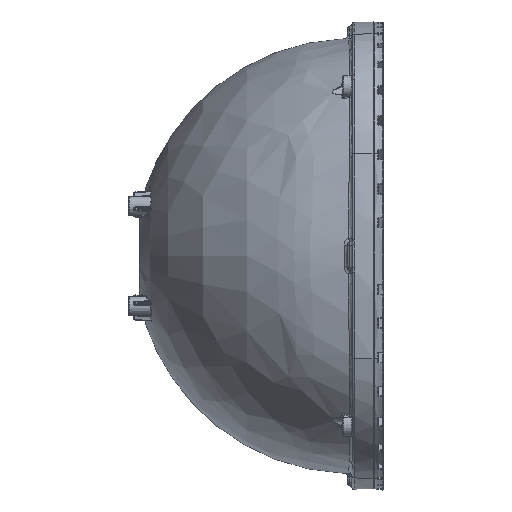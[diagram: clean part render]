
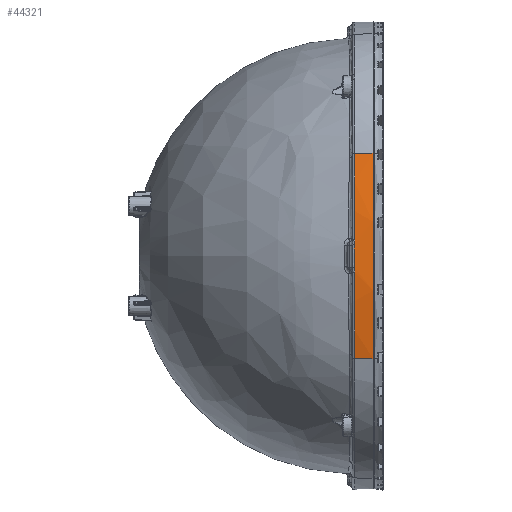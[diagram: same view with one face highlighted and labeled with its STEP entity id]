
A CAD part, left-side view. The second image highlights one B-rep face of the part: STEP entity #44321.
In plain terms, the highlighted conical face has half-angle 1 degrees and reference radius 189.6 mm.
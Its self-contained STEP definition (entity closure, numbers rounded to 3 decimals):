
#1546 = CARTESIAN_POINT ( 'NONE',  ( 57.346, 264.074, 406.567 ) ) ;
#3086 = CARTESIAN_POINT ( 'NONE',  ( 246.751, 256.154, 401.907 ) ) ;
#4263 = CARTESIAN_POINT ( 'NONE',  ( 57.27, 264.046, 403.461 ) ) ;
#5561 = DIRECTION ( 'NONE',  ( 0., -1., 0. ) ) ;
#5612 = CIRCLE ( 'NONE', #103536, 189.464 ) ;
#6062 = VERTEX_POINT ( 'NONE', #106100 ) ;
#8266 = CARTESIAN_POINT ( 'NONE',  ( 57.355, 264.077, 396.896 ) ) ;
#8615 = EDGE_CURVE ( 'NONE', #99272, #18309, #58051, .T. ) ;
#8693 = CARTESIAN_POINT ( 'NONE',  ( 57.407, 263.922, 395.151 ) ) ;
#8806 = ORIENTED_EDGE ( 'NONE', *, *, #90568, .T. ) ;
#11224 = FACE_OUTER_BOUND ( 'NONE', #62847, .T. ) ;
#11858 = ORIENTED_EDGE ( 'NONE', *, *, #51733, .T. ) ;
#13579 = CARTESIAN_POINT ( 'NONE',  ( 62.277, 264.904, 358.782 ) ) ;
#15709 = CIRCLE ( 'NONE', #34742, 189.464 ) ;
#17886 = CARTESIAN_POINT ( 'NONE',  ( 57.346, 264.074, 397.248 ) ) ;
#18309 = VERTEX_POINT ( 'NONE', #103551 ) ;
#19286 = ORIENTED_EDGE ( 'NONE', *, *, #99679, .T. ) ;
#24341 = CARTESIAN_POINT ( 'NONE',  ( 57.27, 264.046, 400.354 ) ) ;
#27616 = CARTESIAN_POINT ( 'NONE',  ( 62.129, 256.154, 445.067 ) ) ;
#27635 = ORIENTED_EDGE ( 'NONE', *, *, #53063, .F. ) ;
#30001 = CARTESIAN_POINT ( 'NONE',  ( 57.394, 263.922, 408.313 ) ) ;
#30131 = VERTEX_POINT ( 'NONE', #51448 ) ;
#34742 = AXIS2_PLACEMENT_3D ( 'NONE', #47405, #114378, #57001 ) ;
#41152 = DIRECTION ( 'NONE',  ( 0., -1., 0. ) ) ;
#44080 = VERTEX_POINT ( 'NONE', #86009 ) ;
#44321 = ADVANCED_FACE ( 'NONE', ( #11224 ), #107088, .T. ) ;
#47405 = CARTESIAN_POINT ( 'NONE',  ( 246.751, 263.922, 401.907 ) ) ;
#49208 = CARTESIAN_POINT ( 'NONE',  ( 57.407, 263.922, 408.664 ) ) ;
#49288 = EDGE_CURVE ( 'NONE', #30131, #84437, #5612, .T. ) ;
#51448 = CARTESIAN_POINT ( 'NONE',  ( 57.407, 263.922, 395.151 ) ) ;
#51733 = EDGE_CURVE ( 'NONE', #119398, #99272, #15709, .T. ) ;
#53063 = EDGE_CURVE ( 'NONE', #89069, #6062, #88846, .T. ) ;
#53641 = ORIENTED_EDGE ( 'NONE', *, *, #117320, .T. ) ;
#54038 = DIRECTION ( 'NONE',  ( 0., -1., 0. ) ) ;
#56347 = CARTESIAN_POINT ( 'NONE',  ( 57.364, 264.041, 396.547 ) ) ;
#57001 = DIRECTION ( 'NONE',  ( 0., 0., -1. ) ) ;
#58051 = B_SPLINE_CURVE_WITH_KNOTS ( 'NONE', 3,
 ( #49208, #30001, #87325, #116191, #58842, #1546 ),
 .UNSPECIFIED., .F., .F.,
 ( 4, 2, 4 ),
 ( 0., 0.001, 0.002 ),
 .UNSPECIFIED. ) ;
#58842 = CARTESIAN_POINT ( 'NONE',  ( 57.355, 264.077, 406.919 ) ) ;
#61126 = LINE ( 'NONE', #27616, #112080 ) ;
#62847 = EDGE_LOOP ( 'NONE', ( #109311, #11858, #116056, #53641, #8806, #99386, #19286, #27635 ) ) ;
#62888 = CARTESIAN_POINT ( 'NONE',  ( 246.751, 263.922, 401.907 ) ) ;
#66018 = CARTESIAN_POINT ( 'NONE',  ( 57.394, 263.922, 395.502 ) ) ;
#70029 = DIRECTION ( 'NONE',  ( 0., 0., 1. ) ) ;
#71806 = AXIS2_PLACEMENT_3D ( 'NONE', #3086, #41152, #70029 ) ;
#72060 = CARTESIAN_POINT ( 'NONE',  ( 57.346, 264.074, 406.567 ) ) ;
#72552 = DIRECTION ( 'NONE',  ( 0., 0., -1. ) ) ;
#72839 = CARTESIAN_POINT ( 'NONE',  ( 57.407, 263.922, 408.664 ) ) ;
#79065 = CARTESIAN_POINT ( 'NONE',  ( 62.129, 256.154, 445.067 ) ) ;
#80528 = DIRECTION ( 'NONE',  ( -0.017, -1., -0.004 ) ) ;
#84437 = VERTEX_POINT ( 'NONE', #94338 ) ;
#86009 = CARTESIAN_POINT ( 'NONE',  ( 57.346, 264.074, 397.248 ) ) ;
#87325 = CARTESIAN_POINT ( 'NONE',  ( 57.384, 263.96, 407.964 ) ) ;
#88846 = CIRCLE ( 'NONE', #93433, 189.6 ) ;
#89069 = VERTEX_POINT ( 'NONE', #79065 ) ;
#90568 = EDGE_CURVE ( 'NONE', #44080, #30131, #93490, .T. ) ;
#91340 = CARTESIAN_POINT ( 'NONE',  ( 57.346, 264.074, 397.248 ) ) ;
#93433 = AXIS2_PLACEMENT_3D ( 'NONE', #111451, #54038, #121086 ) ;
#93490 = B_SPLINE_CURVE_WITH_KNOTS ( 'NONE', 3,
 ( #17886, #8266, #56347, #123380, #66018, #8693 ),
 .UNSPECIFIED., .F., .F.,
 ( 4, 2, 4 ),
 ( 0., 0.001, 0.002 ),
 .UNSPECIFIED. ) ;
#94338 = CARTESIAN_POINT ( 'NONE',  ( 62.261, 263.922, 358.778 ) ) ;
#94610 = DIRECTION ( 'NONE',  ( 0.017, 1., -0.004 ) ) ;
#99272 = VERTEX_POINT ( 'NONE', #72839 ) ;
#99386 = ORIENTED_EDGE ( 'NONE', *, *, #49288, .T. ) ;
#99679 = EDGE_CURVE ( 'NONE', #84437, #6062, #104051, .T. ) ;
#103536 = AXIS2_PLACEMENT_3D ( 'NONE', #62888, #5561, #72552 ) ;
#103551 = CARTESIAN_POINT ( 'NONE',  ( 57.346, 264.074, 406.567 ) ) ;
#104051 = LINE ( 'NONE', #13579, #113038 ) ;
#106100 = CARTESIAN_POINT ( 'NONE',  ( 62.129, 256.154, 358.748 ) ) ;
#107088 = CONICAL_SURFACE ( 'NONE', #71806, 189.6, 0.017 ) ;
#109016 = CARTESIAN_POINT ( 'NONE',  ( 62.261, 263.922, 445.036 ) ) ;
#109311 = ORIENTED_EDGE ( 'NONE', *, *, #120007, .T. ) ;
#111451 = CARTESIAN_POINT ( 'NONE',  ( 246.751, 256.154, 401.907 ) ) ;
#112080 = VECTOR ( 'NONE', #94610, 1000. ) ;
#113038 = VECTOR ( 'NONE', #80528, 1000. ) ;
#114378 = DIRECTION ( 'NONE',  ( 0., -1., 0. ) ) ;
#116056 = ORIENTED_EDGE ( 'NONE', *, *, #8615, .T. ) ;
#116191 = CARTESIAN_POINT ( 'NONE',  ( 57.364, 264.041, 407.267 ) ) ;
#117320 = EDGE_CURVE ( 'NONE', #18309, #44080, #118237, .T. ) ;
#118237 = B_SPLINE_CURVE_WITH_KNOTS ( 'NONE', 3,
 ( #72060, #4263, #24341, #91340 ),
 .UNSPECIFIED., .F., .F.,
 ( 4, 4 ),
 ( 0., 0.009 ),
 .UNSPECIFIED. ) ;
#119398 = VERTEX_POINT ( 'NONE', #109016 ) ;
#120007 = EDGE_CURVE ( 'NONE', #89069, #119398, #61126, .T. ) ;
#121086 = DIRECTION ( 'NONE',  ( 0., 0., 1. ) ) ;
#123380 = CARTESIAN_POINT ( 'NONE',  ( 57.384, 263.96, 395.85 ) ) ;
